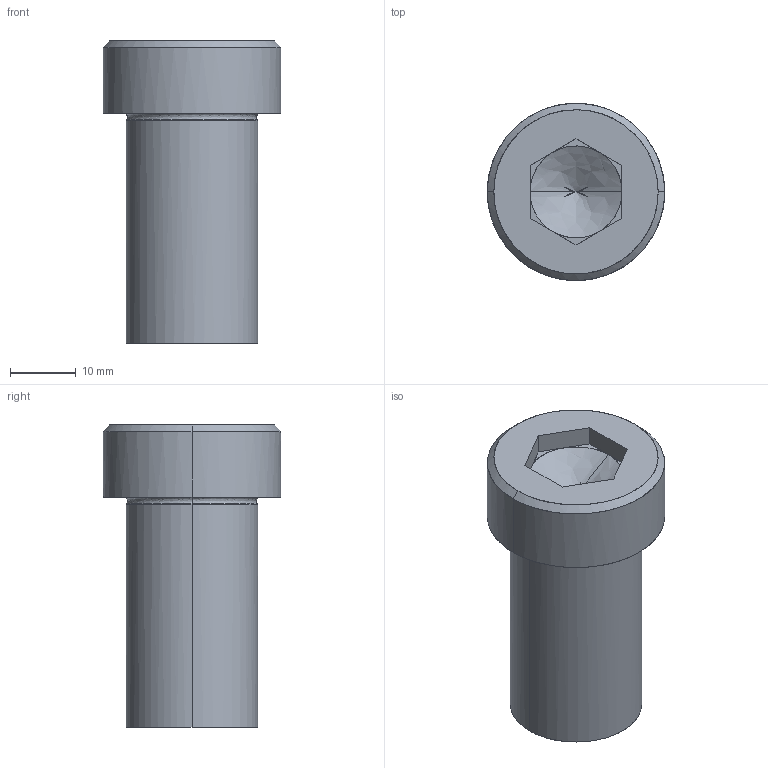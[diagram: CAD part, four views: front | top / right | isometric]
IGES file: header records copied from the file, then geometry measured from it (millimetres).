
Global section: file name: E:\UnigraphicsGraphicData\MISUMI_PRESS-PARTS\IGES\3d_sbtcn20-35_05135_r00.igs; native system: NX V5.0; preprocessor: UGS NX IGES V5.0; author: MISUMI; date: 20110105.162457; units: millimetre
Bounding box: 27 x 27 x 46 mm (x, y, z)
Surface area: 5228.1 mm2 (no closed solid volume)
Topology: 0 solids, 0 shells, 34 faces, 194 edges, 190 vertices
Faces by surface type: bspline 34
